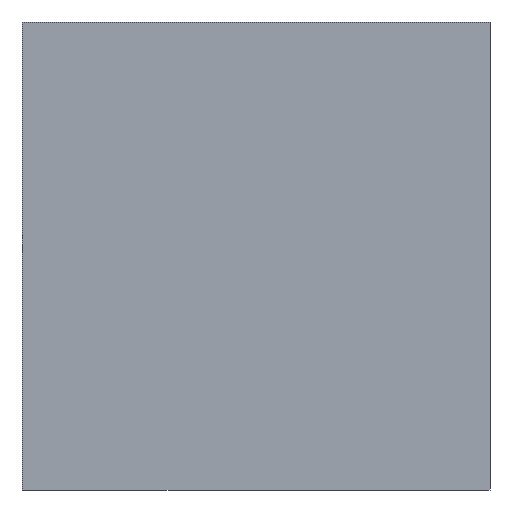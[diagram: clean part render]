
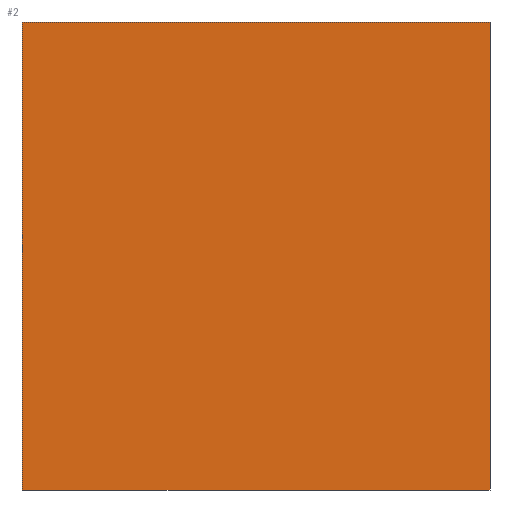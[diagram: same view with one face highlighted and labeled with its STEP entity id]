
A CAD part, front view. The second image highlights one B-rep face of the part: STEP entity #2.
In plain terms, the highlighted planar face has unit normal (0, -1, 0).
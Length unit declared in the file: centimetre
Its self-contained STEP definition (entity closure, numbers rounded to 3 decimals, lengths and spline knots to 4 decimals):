
#2 = ADVANCED_FACE ( 'NONE', ( #6 ), #438, .F. ) ;
#4 = DIRECTION ( 'NONE',  ( 1., 0., 0. ) ) ;
#6 = FACE_OUTER_BOUND ( 'NONE', #196, .T. ) ;
#39 = EDGE_CURVE ( 'NONE', #304, #471, #256, .T. ) ;
#56 = ORIENTED_EDGE ( 'NONE', *, *, #129, .T. ) ;
#64 = EDGE_CURVE ( 'NONE', #122, #471, #413, .T. ) ;
#76 = CARTESIAN_POINT ( 'NONE',  ( 1000., 0., 1000. ) ) ;
#112 = DIRECTION ( 'NONE',  ( 1., 0., 0. ) ) ;
#114 = CARTESIAN_POINT ( 'NONE',  ( 0., 0., 1000. ) ) ;
#117 = VERTEX_POINT ( 'NONE', #452 ) ;
#122 = VERTEX_POINT ( 'NONE', #301 ) ;
#126 = DIRECTION ( 'NONE',  ( 0., 0., 1. ) ) ;
#129 = EDGE_CURVE ( 'NONE', #117, #122, #139, .T. ) ;
#137 = DIRECTION ( 'NONE',  ( 0., 0., -1. ) ) ;
#139 = LINE ( 'NONE', #140, #189 ) ;
#140 = CARTESIAN_POINT ( 'NONE',  ( 0., 0., 1000. ) ) ;
#162 = CARTESIAN_POINT ( 'NONE',  ( 0., 0., 1000. ) ) ;
#189 = VECTOR ( 'NONE', #137, 100. ) ;
#196 = EDGE_LOOP ( 'NONE', ( #284, #212, #463, #56 ) ) ;
#212 = ORIENTED_EDGE ( 'NONE', *, *, #39, .F. ) ;
#256 = LINE ( 'NONE', #486, #508 ) ;
#284 = ORIENTED_EDGE ( 'NONE', *, *, #64, .T. ) ;
#301 = CARTESIAN_POINT ( 'NONE',  ( 0., 0., 0. ) ) ;
#304 = VERTEX_POINT ( 'NONE', #76 ) ;
#311 = EDGE_CURVE ( 'NONE', #117, #304, #382, .T. ) ;
#323 = DIRECTION ( 'NONE',  ( 0., 1., 0. ) ) ;
#368 = DIRECTION ( 'NONE',  ( 0., 0., -1. ) ) ;
#378 = AXIS2_PLACEMENT_3D ( 'NONE', #162, #323, #126 ) ;
#381 = VECTOR ( 'NONE', #112, 100. ) ;
#382 = LINE ( 'NONE', #114, #381 ) ;
#399 = CARTESIAN_POINT ( 'NONE',  ( 1000., 0., 0. ) ) ;
#413 = LINE ( 'NONE', #477, #487 ) ;
#438 = PLANE ( 'NONE',  #378 ) ;
#452 = CARTESIAN_POINT ( 'NONE',  ( 0., 0., 1000. ) ) ;
#463 = ORIENTED_EDGE ( 'NONE', *, *, #311, .F. ) ;
#471 = VERTEX_POINT ( 'NONE', #399 ) ;
#477 = CARTESIAN_POINT ( 'NONE',  ( 0., 0., 0. ) ) ;
#486 = CARTESIAN_POINT ( 'NONE',  ( 1000., 0., 1000. ) ) ;
#487 = VECTOR ( 'NONE', #4, 100. ) ;
#508 = VECTOR ( 'NONE', #368, 100. ) ;
